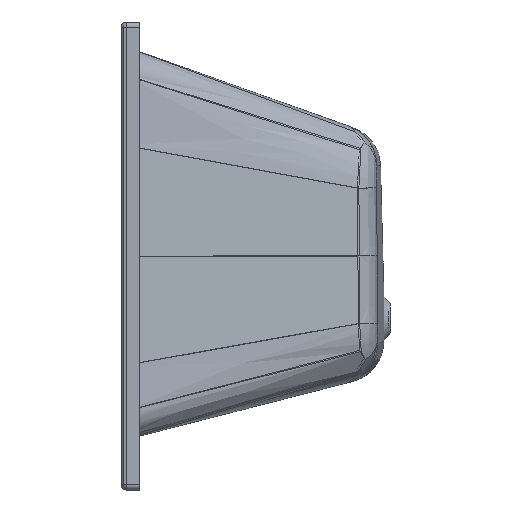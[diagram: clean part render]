
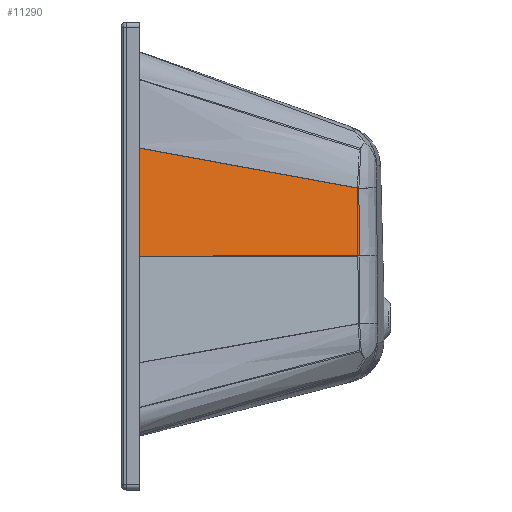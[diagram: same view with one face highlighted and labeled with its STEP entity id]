
A CAD part, left-side view. The second image highlights one B-rep face of the part: STEP entity #11290.
In plain terms, the highlighted free-form (B-spline) face has degree [3, 3] with [4, 7] control points.
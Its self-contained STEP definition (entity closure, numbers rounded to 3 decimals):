
#3307=CARTESIAN_POINT('',(-586.349,-456.792,
130.456));
#3308=CARTESIAN_POINT('',(-612.026,-420.11,
137.189));
#3309=CARTESIAN_POINT('',(-664.171,-345.617,
150.86));
#3310=CARTESIAN_POINT('',(-769.191,-195.588,
178.395));
#3311=CARTESIAN_POINT('',(-848.534,-82.241,
199.198));
#3312=CARTESIAN_POINT('',(-901.409,-6.706,
213.061));
#3324=CARTESIAN_POINT('',(-901.409,-6.706,
213.061));
#3326=CARTESIAN_POINT('',(-585.538,-457.95,
0.));
#3327=CARTESIAN_POINT('',(-585.568,-457.907,
7.192));
#3328=CARTESIAN_POINT('',(-585.634,-457.814,
21.591));
#3329=CARTESIAN_POINT('',(-585.748,-457.651,
43.274));
#3330=CARTESIAN_POINT('',(-585.876,-457.468,
64.892));
#3331=CARTESIAN_POINT('',(-586.018,-457.264,
86.602));
#3332=CARTESIAN_POINT('',(-586.175,-457.041,
108.39));
#3333=CARTESIAN_POINT('',(-586.289,-456.877,
123.081));
#3334=CARTESIAN_POINT('',(-586.349,-456.792,
130.456));
#3336=DIRECTION('',(-0.573,0.819,0.));
#3337=VECTOR('',#3336,550.814);
#3338=CARTESIAN_POINT('',(-585.538,-457.95,
0.));
#3339=LINE('',#3338,#3337);
#3340=DIRECTION('',(0.,0.,-1.));
#3341=VECTOR('',#3340,213.061);
#3342=CARTESIAN_POINT('',(-901.409,-6.706,
213.061));
#3343=LINE('',#3342,#3341);
#6226=VERTEX_POINT('',#3324);
#6228=CARTESIAN_POINT('',(-901.409,-6.706,
0.));
#6229=VERTEX_POINT('',#6228);
#6232=VERTEX_POINT('',#3326);
#6233=VERTEX_POINT('',#3334);
#11253=CARTESIAN_POINT('',(-582.379,-462.463,
130.697));
#11254=CARTESIAN_POINT('',(-582.379,-462.463,
119.536));
#11255=CARTESIAN_POINT('',(-582.379,-462.463,
97.601));
#11256=CARTESIAN_POINT('',(-582.379,-462.463,
64.83));
#11257=CARTESIAN_POINT('',(-582.379,-462.463,
32.));
#11258=CARTESIAN_POINT('',(-582.379,-462.463,
9.948));
#11259=CARTESIAN_POINT('',(-582.379,-462.463,
-1.294));
#11260=CARTESIAN_POINT('',(-689.775,-309.04,
159.141));
#11261=CARTESIAN_POINT('',(-689.775,-309.04,
145.489));
#11262=CARTESIAN_POINT('',(-689.775,-309.04,
118.685));
#11263=CARTESIAN_POINT('',(-689.775,-309.04,
78.767));
#11264=CARTESIAN_POINT('',(-689.775,-309.04,
38.867));
#11265=CARTESIAN_POINT('',(-689.775,-309.04,
12.083));
#11266=CARTESIAN_POINT('',(-689.775,-309.04,
-1.572));
#11267=CARTESIAN_POINT('',(-797.172,-155.617,
187.585));
#11268=CARTESIAN_POINT('',(-797.172,-155.617,
171.443));
#11269=CARTESIAN_POINT('',(-797.172,-155.617,
139.77));
#11270=CARTESIAN_POINT('',(-797.172,-155.617,
92.705));
#11271=CARTESIAN_POINT('',(-797.172,-155.617,
45.735));
#11272=CARTESIAN_POINT('',(-797.172,-155.617,
14.219));
#11273=CARTESIAN_POINT('',(-797.172,-155.617,
-1.85));
#11274=CARTESIAN_POINT('',(-904.568,-2.194,
216.029));
#11275=CARTESIAN_POINT('',(-904.568,-2.194,
197.396));
#11276=CARTESIAN_POINT('',(-904.568,-2.194,
160.854));
#11277=CARTESIAN_POINT('',(-904.568,-2.194,
106.643));
#11278=CARTESIAN_POINT('',(-904.568,-2.194,
52.602));
#11279=CARTESIAN_POINT('',(-904.568,-2.194,
16.355));
#11280=CARTESIAN_POINT('',(-904.568,-2.194,
-2.128));
#11281=B_SPLINE_SURFACE_WITH_KNOTS('',3,3,((#11253,#11254,#11255,#11256,#11257,
#11258,#11259),(#11260,#11261,#11262,#11263,#11264,#11265,#11266),(#11267,
#11268,#11269,#11270,#11271,#11272,#11273),(#11274,#11275,#11276,#11277,#11278,
#11279,#11280)),.UNSPECIFIED.,.F.,.F.,.F.,(4,4),(4,1,1,1,4),(0.081,
1.001),(0.959,0.97,0.98,
0.99,1.),.UNSPECIFIED.);
#11282=ORIENTED_EDGE('',*,*,#9500,.F.);
#11284=ORIENTED_EDGE('',*,*,#11283,.T.);
#11286=ORIENTED_EDGE('',*,*,#11285,.F.);
#11287=ORIENTED_EDGE('',*,*,#11244,.F.);
#11288=EDGE_LOOP('',(#11282,#11284,#11286,#11287));
#11289=FACE_OUTER_BOUND('',#11288,.F.);
#3313=B_SPLINE_CURVE_WITH_KNOTS('',3,(#3307,#3308,#3309,#3310,#3311,#3312),
.UNSPECIFIED.,.F.,.F.,(4,1,1,4),(0.,0.244,0.497,1.),
.UNSPECIFIED.);
#3335=B_SPLINE_CURVE_WITH_KNOTS('',3,(#3326,#3327,#3328,#3329,#3330,#3331,#3332,
#3333,#3334),.UNSPECIFIED.,.F.,.F.,(4,1,1,1,1,1,4),(0.,0.167,
0.333,0.5,0.667,0.833,1.),
.UNSPECIFIED.);
#9500=EDGE_CURVE('',#6232,#6233,#3335,.T.);
#11244=EDGE_CURVE('',#6233,#6226,#3313,.T.);
#11283=EDGE_CURVE('',#6232,#6229,#3339,.T.);
#11285=EDGE_CURVE('',#6226,#6229,#3343,.T.);
#11290=ADVANCED_FACE('',(#11289),#11281,.T.);
